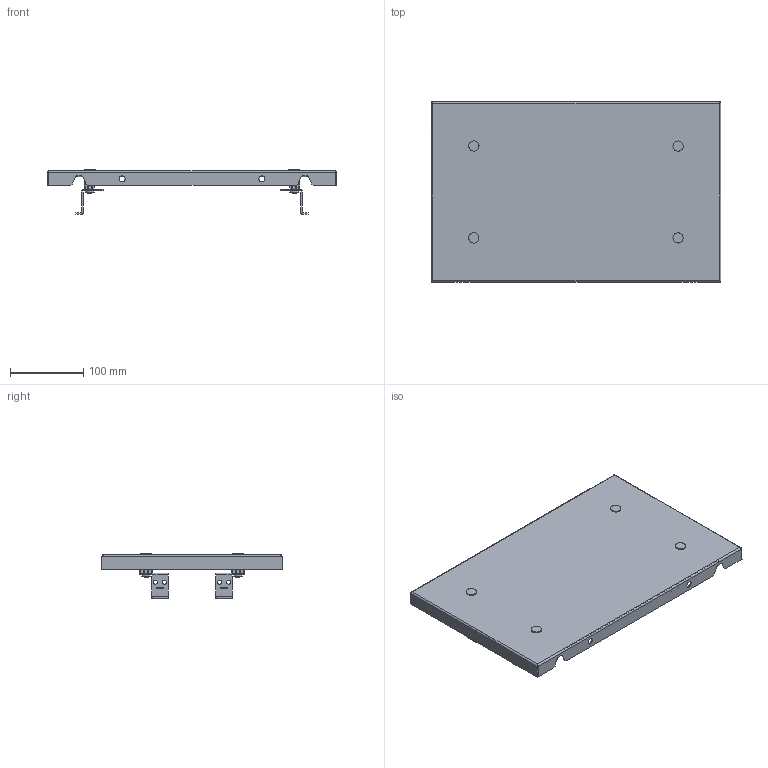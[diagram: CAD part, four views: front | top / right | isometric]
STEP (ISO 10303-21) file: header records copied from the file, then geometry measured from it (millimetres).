
FILE_DESCRIPTION(('CAx-IF Rec.Pracs.---Model Styling and Organization---1.2---2011-12-15','CAx-IF Rec.Pracs.---Geometric and Assembly Validation Properties---4.1---2014-06-16','CAx-IF Rec.Pracs.---PMI Polyline Presentation---2.0---2013-05-24'),'2;1');
FILE_NAME('R5CPFEM4250.stp','2021-05-06T03:36:31+03:00',(''),(''),'STEP Interface 4.4 by CT CoreTechnologie','3D_Evolution4.4 by CT CoreTechnologie','');
FILE_SCHEMA(('AUTOMOTIVE_DESIGN { 1 0 10303 214 1 1 1 1 }'));
Length unit declared in the file: millimetre
Products named in the file (11): R5CPFEM4250; A1100001; AC00C172_AC00C172; M6x16-DIN 7985 ISR_thread; RB.0555.00.00.0 ÑÁ_-12; RB.0555.00.01.0_-12; PF 7x14 R5CPFEM_0250x0400; Ì6õ12-A5100231_straight; AC00C061_AC00C061; RB.0544.00.00.1_-01; RB.0544.00.00.1_-00
Assembly tree (21 placements, depth 3):
  R5CPFEM4250
    A1100001  x4
    AC00C172_AC00C172  x4
    M6x16-DIN 7985 ISR_thread  x4
    RB.0555.00.00.0 ÑÁ_-12
      RB.0555.00.01.0_-12
      PF 7x14 R5CPFEM_0250x0400
      Ì6õ12-A5100231_straight
      AC00C061_AC00C061
    RB.0544.00.00.1_-01  x2
    RB.0544.00.00.1_-00  x2
Bounding box: 394 x 245 x 61 mm (x, y, z)
Surface area: 302403.4 mm2 (no closed solid volume)
Topology: 0 solids, 30 shells, 422 faces, 1077 edges, 715 vertices
Faces by surface type: plane 282, cylinder 104, bspline 36
Entity records: 8202 total; most frequent: CARTESIAN_POINT 1929, ORIENTED_EDGE 1166, DIRECTION 1156, EDGE_CURVE 583, VECTOR 420, LINE 420, VERTEX_POINT 385, AXIS2_PLACEMENT_3D 368
